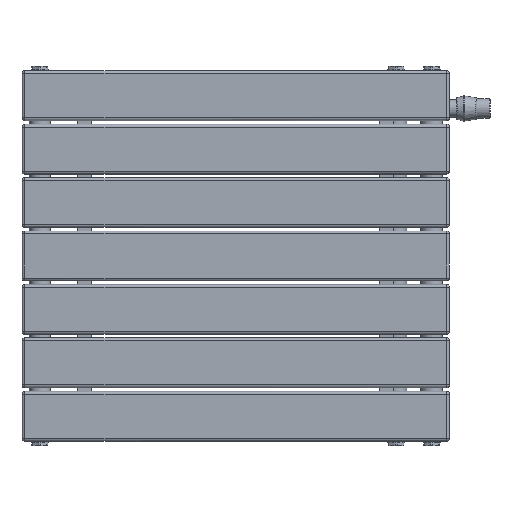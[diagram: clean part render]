
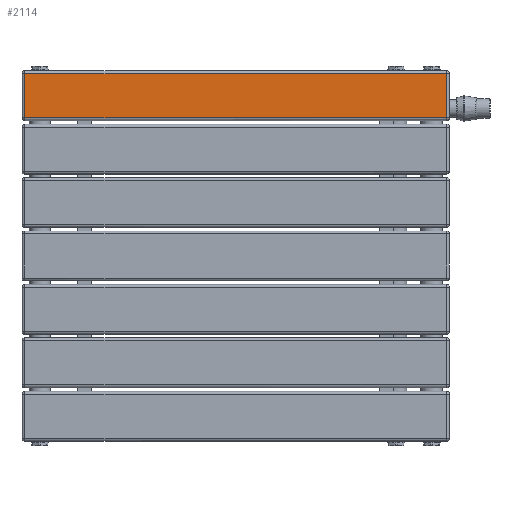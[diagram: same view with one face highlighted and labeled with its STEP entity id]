
A CAD part, top view. The second image highlights one B-rep face of the part: STEP entity #2114.
In plain terms, the highlighted planar face has unit normal (0, 0, 1) as drawn and (0, -1, 0) by its records, which use the part's own axes.
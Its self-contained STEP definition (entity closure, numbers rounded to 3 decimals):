
#225=LINE('',#3357,#397);
#226=LINE('',#3359,#398);
#227=LINE('',#3361,#399);
#228=LINE('',#3362,#400);
#397=VECTOR('',#2649,10.);
#398=VECTOR('',#2650,10.);
#399=VECTOR('',#2651,10.);
#400=VECTOR('',#2652,10.);
#563=PLANE('',#2337);
#683=FACE_OUTER_BOUND('',#820,.T.);
#820=EDGE_LOOP('',(#1552,#1553,#1554,#1555));
#1074=VERTEX_POINT('',#3355);
#1075=VERTEX_POINT('',#3356);
#1076=VERTEX_POINT('',#3358);
#1077=VERTEX_POINT('',#3360);
#1260=EDGE_CURVE('',#1074,#1075,#225,.T.);
#1261=EDGE_CURVE('',#1076,#1074,#226,.T.);
#1262=EDGE_CURVE('',#1077,#1076,#227,.T.);
#1263=EDGE_CURVE('',#1075,#1077,#228,.T.);
#1552=ORIENTED_EDGE('',*,*,#1260,.F.);
#1553=ORIENTED_EDGE('',*,*,#1261,.F.);
#1554=ORIENTED_EDGE('',*,*,#1262,.F.);
#1555=ORIENTED_EDGE('',*,*,#1263,.F.);
#2114=ADVANCED_FACE('',(#683),#563,.T.);
#2337=AXIS2_PLACEMENT_3D('',#3354,#2647,#2648);
#2647=DIRECTION('center_axis',(0.,-1.,0.));
#2648=DIRECTION('ref_axis',(1.,0.,0.));
#2649=DIRECTION('',(-1.,0.,0.));
#2650=DIRECTION('',(0.,0.,-1.));
#2651=DIRECTION('',(1.,0.,0.));
#2652=DIRECTION('',(0.,0.,1.));
#3354=CARTESIAN_POINT('Origin',(-31.,-8.,0.));
#3355=CARTESIAN_POINT('',(31.,-8.,-296.));
#3356=CARTESIAN_POINT('',(-31.,-8.,-296.));
#3357=CARTESIAN_POINT('',(-15.5,-8.,-296.));
#3358=CARTESIAN_POINT('',(31.,-8.,296.));
#3359=CARTESIAN_POINT('',(31.,-8.,0.));
#3360=CARTESIAN_POINT('',(-31.,-8.,296.));
#3361=CARTESIAN_POINT('',(-15.5,-8.,296.));
#3362=CARTESIAN_POINT('',(-31.,-8.,0.));
